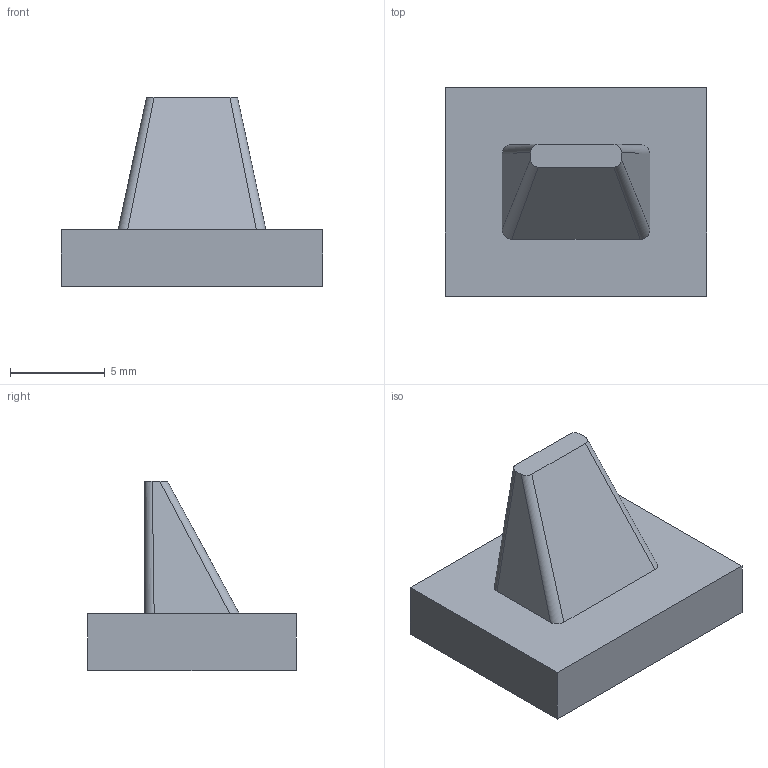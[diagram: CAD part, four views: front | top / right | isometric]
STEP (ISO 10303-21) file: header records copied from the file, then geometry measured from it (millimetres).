
FILE_DESCRIPTION(('Open CASCADE Model'),'2;1');
FILE_NAME('Open CASCADE Shape Model','2026-09-15T13:43:01',('Author'),( 'Open CASCADE'),'Open CASCADE STEP processor 7.7','Open CASCADE 7.7' ,'Unknown');
FILE_SCHEMA(('AUTOMOTIVE_DESIGN { 1 0 10303 214 1 1 1 1 }'));
Length unit declared in the file: millimetre
Products named in the file (1): COMPOUND
Bounding box: 13.8 x 11 x 9.99 mm (x, y, z)
Volume: 598.5 mm3; surface area: 552.7 mm2
Topology: 1 solids, 1 shells, 15 faces, 36 edges, 24 vertices
Faces by surface type: bspline 8, plane 7
Entity records: 1128 total; most frequent: CARTESIAN_POINT 460, DIRECTION 92, ORIENTED_EDGE 72, PCURVE 72, DEFINITIONAL_REPRESENTATION 72, LINE 64, VECTOR 64, EDGE_CURVE 36
